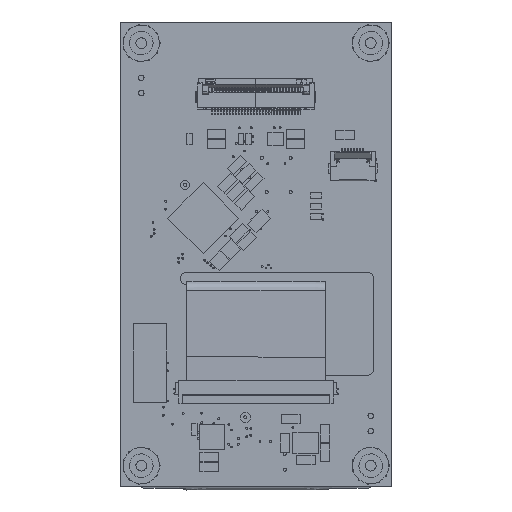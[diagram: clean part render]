
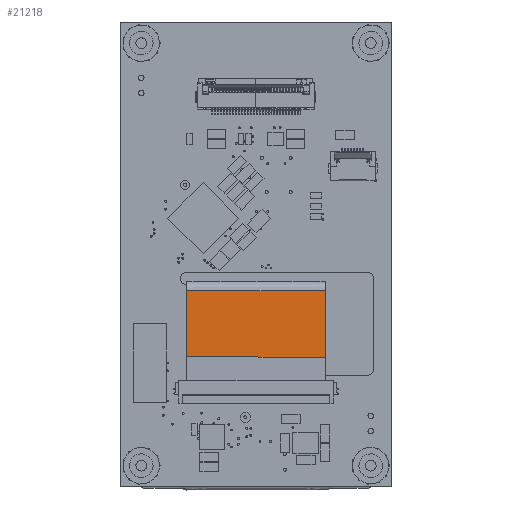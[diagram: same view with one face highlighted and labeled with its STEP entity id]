
A CAD part, top view. The second image highlights one B-rep face of the part: STEP entity #21218.
In plain terms, the highlighted planar face has unit normal (0, 0.003, 1) as drawn and (0, 0.003, -1) by its records, which use the part's own axes.
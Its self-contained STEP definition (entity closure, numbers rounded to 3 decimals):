
#4496 = CARTESIAN_POINT ( 'NONE',  ( 11.026, -51.84, -2.988 ) ) ;
#4934 = CARTESIAN_POINT ( 'NONE',  ( 34.026, -55.496, -2.999 ) ) ;
#6453 = EDGE_CURVE ( 'NONE', #26861, #55499, #46142, .T. ) ;
#8183 = AXIS2_PLACEMENT_3D ( 'NONE', #39381, #60131, #63036 ) ;
#11564 = ORIENTED_EDGE ( 'NONE', *, *, #146037, .F. ) ;
#17642 = EDGE_LOOP ( 'NONE', ( #71181, #11564, #73259, #86526 ) ) ;
#18210 = CARTESIAN_POINT ( 'NONE',  ( 34.024, -44.519, -2.965 ) ) ;
#21218 = ADVANCED_FACE ( 'NONE', ( #27568 ), #117713, .T. ) ;
#25334 = VERTEX_POINT ( 'NONE', #40967 ) ;
#26861 = VERTEX_POINT ( 'NONE', #133267 ) ;
#27568 = FACE_OUTER_BOUND ( 'NONE', #17642, .T. ) ;
#30661 = EDGE_CURVE ( 'NONE', #25334, #55499, #140705, .T. ) ;
#39381 = CARTESIAN_POINT ( 'NONE',  ( 10.016, -6.501, -2.847 ) ) ;
#40548 = CARTESIAN_POINT ( 'NONE',  ( 26.36, -55.497, -2.999 ) ) ;
#40725 = B_SPLINE_CURVE_WITH_KNOTS ( 'NONE', 3,
 ( #51634, #73068, #40548, #119583 ),
 .UNSPECIFIED., .F., .F.,
 ( 4, 4 ),
 ( 0., 1. ),
 .UNSPECIFIED. ) ;
#40967 = CARTESIAN_POINT ( 'NONE',  ( 34.026, -55.496, -2.999 ) ) ;
#42338 = EDGE_CURVE ( 'NONE', #72098, #25334, #40725, .T. ) ;
#43084 = CARTESIAN_POINT ( 'NONE',  ( 11.024, -44.52, -2.965 ) ) ;
#46142 = B_SPLINE_CURVE_WITH_KNOTS ( 'NONE', 3,
 ( #43084, #131833, #120682, #122159 ),
 .UNSPECIFIED., .F., .F.,
 ( 4, 4 ),
 ( 0., 1. ),
 .UNSPECIFIED. ) ;
#51634 = CARTESIAN_POINT ( 'NONE',  ( 11.026, -55.501, -2.999 ) ) ;
#55499 = VERTEX_POINT ( 'NONE', #118692 ) ;
#60131 = DIRECTION ( 'NONE',  ( 0., 0.003, -1. ) ) ;
#60648 = CARTESIAN_POINT ( 'NONE',  ( 11.025, -48.18, -2.977 ) ) ;
#61822 = CARTESIAN_POINT ( 'NONE',  ( 34.026, -51.837, -2.988 ) ) ;
#63036 = DIRECTION ( 'NONE',  ( -1., 0., 0. ) ) ;
#64706 = CARTESIAN_POINT ( 'NONE',  ( 11.026, -55.501, -2.999 ) ) ;
#71181 = ORIENTED_EDGE ( 'NONE', *, *, #42338, .F. ) ;
#72098 = VERTEX_POINT ( 'NONE', #64706 ) ;
#73068 = CARTESIAN_POINT ( 'NONE',  ( 18.693, -55.499, -2.999 ) ) ;
#73259 = ORIENTED_EDGE ( 'NONE', *, *, #6453, .T. ) ;
#86526 = ORIENTED_EDGE ( 'NONE', *, *, #30661, .F. ) ;
#96516 = CARTESIAN_POINT ( 'NONE',  ( 34.025, -48.178, -2.977 ) ) ;
#101516 = CARTESIAN_POINT ( 'NONE',  ( 11.026, -55.501, -2.999 ) ) ;
#117713 = PLANE ( 'NONE',  #8183 ) ;
#118692 = CARTESIAN_POINT ( 'NONE',  ( 34.024, -44.519, -2.965 ) ) ;
#119583 = CARTESIAN_POINT ( 'NONE',  ( 34.026, -55.496, -2.999 ) ) ;
#120682 = CARTESIAN_POINT ( 'NONE',  ( 26.357, -44.519, -2.965 ) ) ;
#122159 = CARTESIAN_POINT ( 'NONE',  ( 34.024, -44.519, -2.965 ) ) ;
#123528 = B_SPLINE_CURVE_WITH_KNOTS ( 'NONE', 3,
 ( #135556, #60648, #4496, #101516 ),
 .UNSPECIFIED., .F., .F.,
 ( 4, 4 ),
 ( 0., 1. ),
 .UNSPECIFIED. ) ;
#131833 = CARTESIAN_POINT ( 'NONE',  ( 18.691, -44.52, -2.965 ) ) ;
#133267 = CARTESIAN_POINT ( 'NONE',  ( 11.024, -44.52, -2.965 ) ) ;
#135556 = CARTESIAN_POINT ( 'NONE',  ( 11.024, -44.52, -2.965 ) ) ;
#140705 = B_SPLINE_CURVE_WITH_KNOTS ( 'NONE', 3,
 ( #4934, #61822, #96516, #18210 ),
 .UNSPECIFIED., .F., .F.,
 ( 4, 4 ),
 ( 0., 1. ),
 .UNSPECIFIED. ) ;
#146037 = EDGE_CURVE ( 'NONE', #26861, #72098, #123528, .T. ) ;
